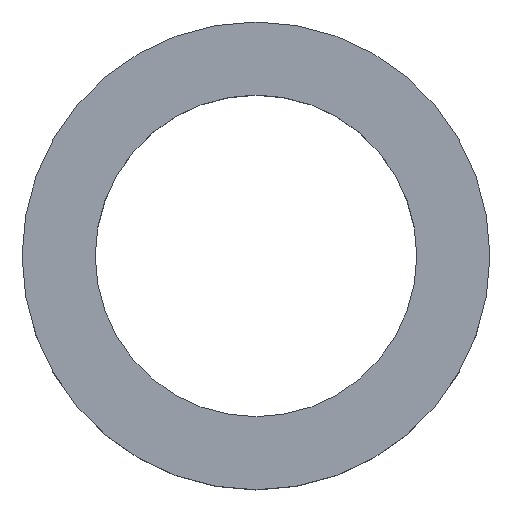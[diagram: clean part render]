
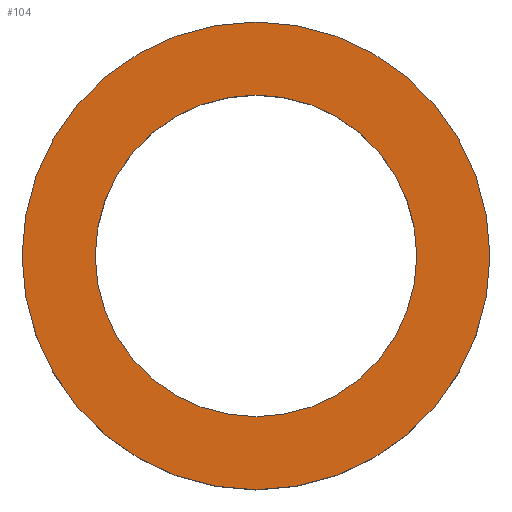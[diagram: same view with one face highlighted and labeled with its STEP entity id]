
A CAD part, top view. The second image highlights one B-rep face of the part: STEP entity #104.
In plain terms, the highlighted planar face has unit normal (0, 0, 1).
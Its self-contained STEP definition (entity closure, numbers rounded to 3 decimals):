
#21 = EDGE_CURVE('',#22,#22,#24,.T.);
#22 = VERTEX_POINT('',#23);
#23 = CARTESIAN_POINT('',(8.,28.,200.));
#24 = SURFACE_CURVE('',#25,(#30,#42),.PCURVE_S1.);
#25 = CIRCLE('',#26,8.);
#26 = AXIS2_PLACEMENT_3D('',#27,#28,#29);
#27 = CARTESIAN_POINT('',(0.,28.,200.));
#28 = DIRECTION('',(0.,0.,1.));
#29 = DIRECTION('',(1.,0.,0.));
#30 = PCURVE('',#31,#36);
#31 = CYLINDRICAL_SURFACE('',#32,8.);
#32 = AXIS2_PLACEMENT_3D('',#33,#34,#35);
#33 = CARTESIAN_POINT('',(0.,28.,196.));
#34 = DIRECTION('',(0.,0.,1.));
#35 = DIRECTION('',(1.,0.,0.));
#36 = DEFINITIONAL_REPRESENTATION('',(#37),#41);
#37 = LINE('',#38,#39);
#38 = CARTESIAN_POINT('',(0.,4.));
#39 = VECTOR('',#40,1.);
#40 = DIRECTION('',(1.,0.));
#41 = ( GEOMETRIC_REPRESENTATION_CONTEXT(2) 
PARAMETRIC_REPRESENTATION_CONTEXT() REPRESENTATION_CONTEXT('2D SPACE',''
  ) );
#42 = PCURVE('',#43,#48);
#43 = PLANE('',#44);
#44 = AXIS2_PLACEMENT_3D('',#45,#46,#47);
#45 = CARTESIAN_POINT('',(0.,28.,200.));
#46 = DIRECTION('',(0.,0.,1.));
#47 = DIRECTION('',(1.,0.,0.));
#48 = DEFINITIONAL_REPRESENTATION('',(#49),#53);
#49 = CIRCLE('',#50,8.);
#50 = AXIS2_PLACEMENT_2D('',#51,#52);
#51 = CARTESIAN_POINT('',(0.,0.));
#52 = DIRECTION('',(1.,0.));
#53 = ( GEOMETRIC_REPRESENTATION_CONTEXT(2) 
PARAMETRIC_REPRESENTATION_CONTEXT() REPRESENTATION_CONTEXT('2D SPACE',''
  ) );
#104 = ADVANCED_FACE('',(#105,#108),#43,.T.);
#105 = FACE_BOUND('',#106,.T.);
#106 = EDGE_LOOP('',(#107));
#107 = ORIENTED_EDGE('',*,*,#21,.T.);
#108 = FACE_BOUND('',#109,.T.);
#109 = EDGE_LOOP('',(#110));
#110 = ORIENTED_EDGE('',*,*,#111,.F.);
#111 = EDGE_CURVE('',#112,#112,#114,.T.);
#112 = VERTEX_POINT('',#113);
#113 = CARTESIAN_POINT('',(5.5,28.,200.));
#114 = SURFACE_CURVE('',#115,(#120,#127),.PCURVE_S1.);
#115 = CIRCLE('',#116,5.5);
#116 = AXIS2_PLACEMENT_3D('',#117,#118,#119);
#117 = CARTESIAN_POINT('',(0.,28.,200.));
#118 = DIRECTION('',(0.,0.,1.));
#119 = DIRECTION('',(1.,0.,0.));
#120 = PCURVE('',#43,#121);
#121 = DEFINITIONAL_REPRESENTATION('',(#122),#126);
#122 = CIRCLE('',#123,5.5);
#123 = AXIS2_PLACEMENT_2D('',#124,#125);
#124 = CARTESIAN_POINT('',(0.,0.));
#125 = DIRECTION('',(1.,0.));
#126 = ( GEOMETRIC_REPRESENTATION_CONTEXT(2) 
PARAMETRIC_REPRESENTATION_CONTEXT() REPRESENTATION_CONTEXT('2D SPACE',''
  ) );
#127 = PCURVE('',#128,#133);
#128 = CYLINDRICAL_SURFACE('',#129,5.5);
#129 = AXIS2_PLACEMENT_3D('',#130,#131,#132);
#130 = CARTESIAN_POINT('',(0.,28.,196.));
#131 = DIRECTION('',(0.,0.,1.));
#132 = DIRECTION('',(1.,0.,0.));
#133 = DEFINITIONAL_REPRESENTATION('',(#134),#138);
#134 = LINE('',#135,#136);
#135 = CARTESIAN_POINT('',(0.,4.));
#136 = VECTOR('',#137,1.);
#137 = DIRECTION('',(1.,0.));
#138 = ( GEOMETRIC_REPRESENTATION_CONTEXT(2) 
PARAMETRIC_REPRESENTATION_CONTEXT() REPRESENTATION_CONTEXT('2D SPACE',''
  ) );
